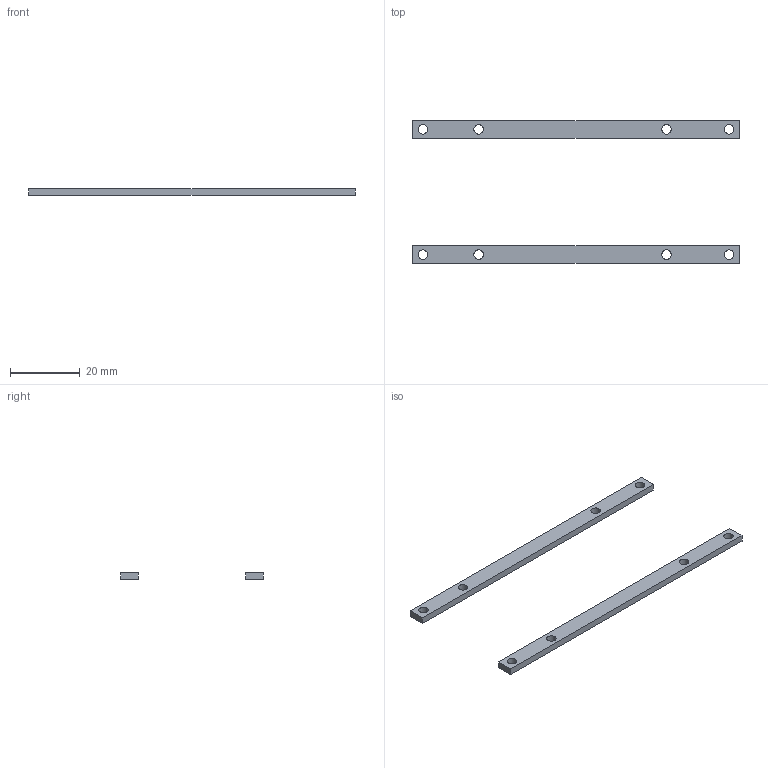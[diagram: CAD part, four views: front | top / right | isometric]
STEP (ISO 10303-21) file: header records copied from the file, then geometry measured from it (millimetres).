
FILE_DESCRIPTION(('Open CASCADE Model'),'2;1');
FILE_NAME('Open CASCADE Shape Model','2026-11-05T02:23:55',('Author'),( 'Open CASCADE'),'Open CASCADE STEP processor 7.8','Open CASCADE 7.8' ,'Unknown');
FILE_SCHEMA(('AUTOMOTIVE_DESIGN { 1 0 10303 214 1 1 1 1 }'));
Length unit declared in the file: millimetre
Products named in the file (3): Open CASCADE STEP translator 7.8 8; Open CASCADE STEP translator 7.8 8.1; Open CASCADE STEP translator 7.8 8.2
Assembly tree (2 placements, depth 2):
  Open CASCADE STEP translator 7.8 8
    Open CASCADE STEP translator 7.8 8.1
    Open CASCADE STEP translator 7.8 8.2
Bounding box: 94 x 41 x 2 mm (x, y, z)
Volume: 1788.4 mm3; surface area: 2716.1 mm2
Topology: 2 solids, 2 shells, 20 faces, 48 edges, 32 vertices
Faces by surface type: plane 12, cylinder 8
Full cylindrical faces by diameter (mm): 2.7 x8
Entity records: 1288 total; most frequent: DIRECTION 206, CARTESIAN_POINT 199, LINE 112, VECTOR 112, ORIENTED_EDGE 96, PCURVE 96, DEFINITIONAL_REPRESENTATION 96, EDGE_CURVE 48
